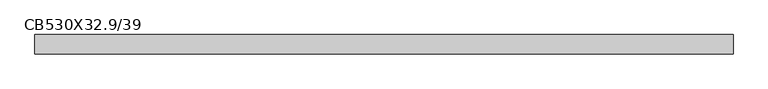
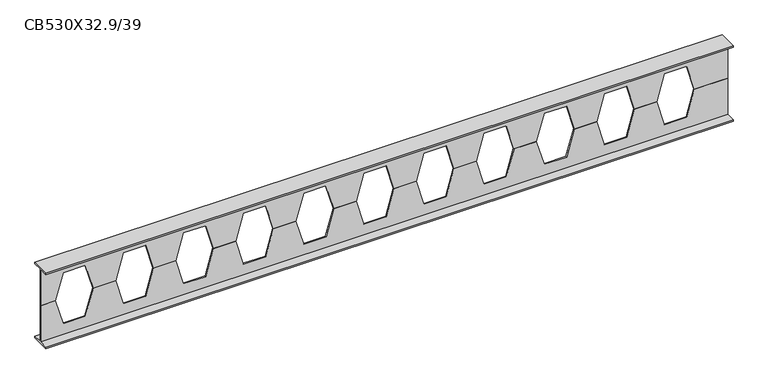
"""IFC4 building model written with IfcOpenShell, lengths in millimetres: beam geometry, Poutre alvéolaire : CB530X32.9/39."""

from ifc_helpers import new_model, si_unit, origin, place, context, project, spatial, faceted_brep, source, transform, mapped, element, save


def cb530x32_9_39_dbc4be5c(model_context):
    return source(origin(), model_context, "Body", "Brep", [
        faceted_brep([(2357.0, 64.0, -255.8), (2357.0, 3.25, -255.8), (2357.0, 3.25, 0.0), (2357.0, -3.25, 0.0), (2357.0, -3.25, -255.8), (2357.0, -64.0, -255.8), (2357.0, -64.0, -266.5), (2357.0, 64.0, -266.5), (-2232.0, 3.25, -255.8), (-2232.0, 64.0, -255.8), (-2232.0, 64.0, -266.5), (-2232.0, -64.0, -266.5), (-2232.0, -64.0, -255.8), (-2232.0, -3.25, -255.8), (-2232.0, -3.25, 0.0), (-2232.0, 3.25, 0.0), (-2133.8, 3.25, 0.0), (-2083.0, 3.25, -180.0), (-1933.0, 3.25, -180.0), (-1882.2, 3.25, 0.0), (-1732.2, 3.25, 0.0), (-1681.4, 3.25, -180.0), (-1531.4, 3.25, -180.0), (-1480.6, 3.25, 0.0), (-1330.6, 3.25, 0.0), (-1279.8, 3.25, -180.0), (-1129.8, 3.25, -180.0), (-1079.0, 3.25, 0.0), (-929.0, 3.25, 0.0), (-878.2, 3.25, -180.0), (-728.2, 3.25, -180.0), (-677.4, 3.25, 0.0), (-527.4, 3.25, 0.0), (-476.6, 3.25, -180.0), (-326.6, 3.25, -180.0), (-275.8, 3.25, 0.0), (-125.8, 3.25, 0.0), (-75.0, 3.25, -180.0), (75.0, 3.25, -180.0), (125.8, 3.25, 0.0), (275.8, 3.25, 0.0), (326.6, 3.25, -180.0), (476.6, 3.25, -180.0), (527.4, 3.25, 0.0), (677.4, 3.25, 0.0), (728.2, 3.25, -180.0), (878.2, 3.25, -180.0), (929.0, 3.25, 0.0), (1079.0, 3.25, 0.0), (1129.8, 3.25, -180.0), (1279.8, 3.25, -180.0), (1330.6, 3.25, 0.0), (1480.6, 3.25, 0.0), (1531.4, 3.25, -180.0), (1681.4, 3.25, -180.0), (1732.2, 3.25, 0.0), (1882.2, 3.25, 0.0), (1933.0, 3.25, -180.0), (2083.0, 3.25, -180.0), (2133.8, 3.25, 0.0), (2133.8, -3.25, 0.0), (-2133.8, -3.25, 0.0), (-1732.2, -3.25, 0.0), (-1882.2, -3.25, 0.0), (-1480.6, -3.25, 0.0), (-1330.6, -3.25, 0.0), (1882.2, -3.25, 0.0), (1732.2, -3.25, 0.0), (-1079.0, -3.25, 0.0), (-929.0, -3.25, 0.0), (-677.4, -3.25, 0.0), (-527.4, -3.25, 0.0), (-275.8, -3.25, 0.0), (-125.8, -3.25, 0.0), (125.8, -3.25, 0.0), (275.8, -3.25, 0.0), (527.4, -3.25, 0.0), (677.4, -3.25, 0.0), (929.0, -3.25, 0.0), (1079.0, -3.25, 0.0), (1330.6, -3.25, 0.0), (1480.6, -3.25, 0.0), (2083.0, -3.25, -180.0), (1933.0, -3.25, -180.0), (1681.4, -3.25, -180.0), (1531.4, -3.25, -180.0), (1279.8, -3.25, -180.0), (1129.8, -3.25, -180.0), (878.2, -3.25, -180.0), (728.2, -3.25, -180.0), (476.6, -3.25, -180.0), (326.6, -3.25, -180.0), (75.0, -3.25, -180.0), (-75.0, -3.25, -180.0), (-326.6, -3.25, -180.0), (-476.6, -3.25, -180.0), (-728.2, -3.25, -180.0), (-878.2, -3.25, -180.0), (-1129.8, -3.25, -180.0), (-1279.8, -3.25, -180.0), (-1531.4, -3.25, -180.0), (-1681.4, -3.25, -180.0), (-1933.0, -3.25, -180.0), (-2083.0, -3.25, -180.0)], [[[0, 1, 2, 3, 4, 5, 6, 7]], [[8, 9, 10, 11, 12, 13, 14, 15]], [[1, 0, 9, 8]], [[2, 1, 8, 15, 16, 17, 18, 19, 20, 21, 22, 23, 24, 25, 26, 27, 28, 29, 30, 31, 32, 33, 34, 35, 36, 37, 38, 39, 40, 41, 42, 43, 44, 45, 46, 47, 48, 49, 50, 51, 52, 53, 54, 55, 56, 57, 58, 59]], [[3, 2, 59, 60]], [[15, 14, 61, 16]], [[62, 20, 19, 63]], [[23, 64, 65, 24]], [[66, 56, 55, 67]], [[27, 68, 69, 28]], [[31, 70, 71, 32]], [[35, 72, 73, 36]], [[39, 74, 75, 40]], [[43, 76, 77, 44]], [[47, 78, 79, 48]], [[51, 80, 81, 52]], [[4, 3, 60, 82, 83, 66, 67, 84, 85, 81, 80, 86, 87, 79, 78, 88, 89, 77, 76, 90, 91, 75, 74, 92, 93, 73, 72, 94, 95, 71, 70, 96, 97, 69, 68, 98, 99, 65, 64, 100, 101, 62, 63, 102, 103, 61, 14, 13]], [[5, 4, 13, 12]], [[6, 5, 12, 11]], [[7, 6, 11, 10]], [[0, 7, 10, 9]], [[101, 21, 20, 62]], [[21, 101, 100, 22]], [[22, 100, 64, 23]], [[83, 57, 56, 66]], [[57, 83, 82, 58]], [[58, 82, 60, 59]], [[103, 17, 16, 61]], [[17, 103, 102, 18]], [[18, 102, 63, 19]], [[99, 25, 24, 65]], [[25, 99, 98, 26]], [[26, 98, 68, 27]], [[97, 29, 28, 69]], [[29, 97, 96, 30]], [[30, 96, 70, 31]], [[95, 33, 32, 71]], [[33, 95, 94, 34]], [[34, 94, 72, 35]], [[93, 37, 36, 73]], [[37, 93, 92, 38]], [[38, 92, 74, 39]], [[91, 41, 40, 75]], [[41, 91, 90, 42]], [[42, 90, 76, 43]], [[89, 45, 44, 77]], [[45, 89, 88, 46]], [[46, 88, 78, 47]], [[87, 49, 48, 79]], [[49, 87, 86, 50]], [[50, 86, 80, 51]], [[85, 53, 52, 81]], [[53, 85, 84, 54]], [[54, 84, 67, 55]]]),
        faceted_brep([(2357.0, 2.9, 0.0), (2357.0, 2.9, 256.0), (2357.0, 63.5, 256.0), (2357.0, 63.5, 264.5), (2357.0, -63.5, 264.5), (2357.0, -63.5, 256.0), (2357.0, -2.9, 256.0), (2357.0, -2.9, 0.0), (-2232.0, 2.9, 256.0), (-2232.0, 2.9, 0.0), (-2232.0, -2.9, 0.0), (-2232.0, -2.9, 256.0), (-2232.0, -63.5, 256.0), (-2232.0, -63.5, 264.5), (-2232.0, 63.5, 264.5), (-2232.0, 63.5, 256.0), (2133.8, 2.9, 0.0), (2083.0, 2.9, 180.0), (1933.0, 2.9, 180.0), (1882.2, 2.9, 0.0), (1732.2, 2.9, 0.0), (1681.4, 2.9, 180.0), (1531.4, 2.9, 180.0), (1480.6, 2.9, 0.0), (1330.6, 2.9, 0.0), (1279.8, 2.9, 180.0), (1129.8, 2.9, 180.0), (1079.0, 2.9, 0.0), (929.0, 2.9, 0.0), (878.2, 2.9, 180.0), (728.2, 2.9, 180.0), (677.4, 2.9, 0.0), (527.4, 2.9, 0.0), (476.6, 2.9, 180.0), (326.6, 2.9, 180.0), (275.8, 2.9, 0.0), (125.8, 2.9, 0.0), (75.0, 2.9, 180.0), (-75.0, 2.9, 180.0), (-125.8, 2.9, 0.0), (-275.8, 2.9, 0.0), (-326.6, 2.9, 180.0), (-476.6, 2.9, 180.0), (-527.4, 2.9, 0.0), (-677.4, 2.9, 0.0), (-728.2, 2.9, 180.0), (-878.2, 2.9, 180.0), (-929.0, 2.9, 0.0), (-1079.0, 2.9, 0.0), (-1129.8, 2.9, 180.0), (-1279.8, 2.9, 180.0), (-1330.6, 2.9, 0.0), (-1480.6, 2.9, 0.0), (-1531.4, 2.9, 180.0), (-1681.4, 2.9, 180.0), (-1732.2, 2.9, 0.0), (-1882.2, 2.9, 0.0), (-1933.0, 2.9, 180.0), (-2083.0, 2.9, 180.0), (-2133.8, 2.9, 0.0), (-2133.8, -2.9, 0.0), (-2083.0, -2.9, 180.0), (-1933.0, -2.9, 180.0), (-1882.2, -2.9, 0.0), (-1732.2, -2.9, 0.0), (-1681.4, -2.9, 180.0), (-1531.4, -2.9, 180.0), (-1480.6, -2.9, 0.0), (-1330.6, -2.9, 0.0), (-1279.8, -2.9, 180.0), (-1129.8, -2.9, 180.0), (-1079.0, -2.9, 0.0), (-929.0, -2.9, 0.0), (-878.2, -2.9, 180.0), (-728.2, -2.9, 180.0), (-677.4, -2.9, 0.0), (-527.4, -2.9, 0.0), (-476.6, -2.9, 180.0), (-326.6, -2.9, 180.0), (-275.8, -2.9, 0.0), (-125.8, -2.9, 0.0), (-75.0, -2.9, 180.0), (75.0, -2.9, 180.0), (125.8, -2.9, 0.0), (275.8, -2.9, 0.0), (326.6, -2.9, 180.0), (476.6, -2.9, 180.0), (527.4, -2.9, 0.0), (677.4, -2.9, 0.0), (728.2, -2.9, 180.0), (878.2, -2.9, 180.0), (929.0, -2.9, 0.0), (1079.0, -2.9, 0.0), (1129.8, -2.9, 180.0), (1279.8, -2.9, 180.0), (1330.6, -2.9, 0.0), (1480.6, -2.9, 0.0), (1531.4, -2.9, 180.0), (1681.4, -2.9, 180.0), (1732.2, -2.9, 0.0), (1882.2, -2.9, 0.0), (1933.0, -2.9, 180.0), (2083.0, -2.9, 180.0), (2133.8, -2.9, 0.0)], [[[0, 1, 2, 3, 4, 5, 6, 7]], [[8, 9, 10, 11, 12, 13, 14, 15]], [[1, 0, 16, 17, 18, 19, 20, 21, 22, 23, 24, 25, 26, 27, 28, 29, 30, 31, 32, 33, 34, 35, 36, 37, 38, 39, 40, 41, 42, 43, 44, 45, 46, 47, 48, 49, 50, 51, 52, 53, 54, 55, 56, 57, 58, 59, 9, 8]], [[2, 1, 8, 15]], [[3, 2, 15, 14]], [[4, 3, 14, 13]], [[5, 4, 13, 12]], [[6, 5, 12, 11]], [[7, 6, 11, 10, 60, 61, 62, 63, 64, 65, 66, 67, 68, 69, 70, 71, 72, 73, 74, 75, 76, 77, 78, 79, 80, 81, 82, 83, 84, 85, 86, 87, 88, 89, 90, 91, 92, 93, 94, 95, 96, 97, 98, 99, 100, 101, 102, 103]], [[0, 7, 103, 16]], [[10, 9, 59, 60]], [[55, 64, 63, 56]], [[67, 52, 51, 68]], [[19, 100, 99, 20]], [[71, 48, 47, 72]], [[75, 44, 43, 76]], [[79, 40, 39, 80]], [[83, 36, 35, 84]], [[87, 32, 31, 88]], [[91, 28, 27, 92]], [[95, 24, 23, 96]], [[54, 65, 64, 55]], [[65, 54, 53, 66]], [[66, 53, 52, 67]], [[18, 101, 100, 19]], [[101, 18, 17, 102]], [[102, 17, 16, 103]], [[58, 61, 60, 59]], [[61, 58, 57, 62]], [[62, 57, 56, 63]], [[50, 69, 68, 51]], [[69, 50, 49, 70]], [[70, 49, 48, 71]], [[46, 73, 72, 47]], [[73, 46, 45, 74]], [[74, 45, 44, 75]], [[42, 77, 76, 43]], [[77, 42, 41, 78]], [[78, 41, 40, 79]], [[38, 81, 80, 39]], [[81, 38, 37, 82]], [[82, 37, 36, 83]], [[34, 85, 84, 35]], [[85, 34, 33, 86]], [[86, 33, 32, 87]], [[30, 89, 88, 31]], [[89, 30, 29, 90]], [[90, 29, 28, 91]], [[26, 93, 92, 27]], [[93, 26, 25, 94]], [[94, 25, 24, 95]], [[22, 97, 96, 23]], [[97, 22, 21, 98]], [[98, 21, 20, 99]]]),
    ])


if __name__ == "__main__":
    model = new_model("IFC4")
    model_context = context("Model", 3, world=origin())
    ifc_project = project(units=[si_unit("LENGTHUNIT", "METRE", prefix="MILLI")], contexts=[model_context])
    site = spatial("IfcSite", under=ifc_project)
    building = spatial("IfcBuilding", under=site)
    placement = place(None, origin())
    cb530x32_9_39_shape = cb530x32_9_39_dbc4be5c(model_context)
    element("IfcBeam", 1, ObjectType="Poutre alvéolaire : CB530X32.9/39", at=placement, inside=building, context=model_context, shape_type="MappedRepresentation", body=[
        mapped(cb530x32_9_39_shape, transform((0.0, 0.0, 0.0), x_axis=(1.0, 0.0, 0.0), y_axis=(0.0, 1.0, 0.0), z_axis=(0.0, 0.0, 1.0))),
    ])
    save(model, "model.ifc")
